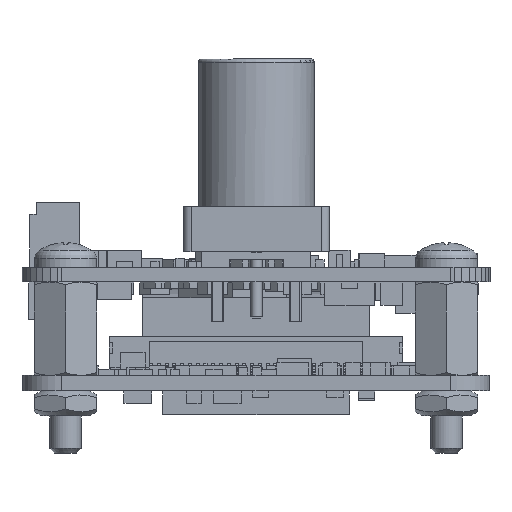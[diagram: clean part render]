
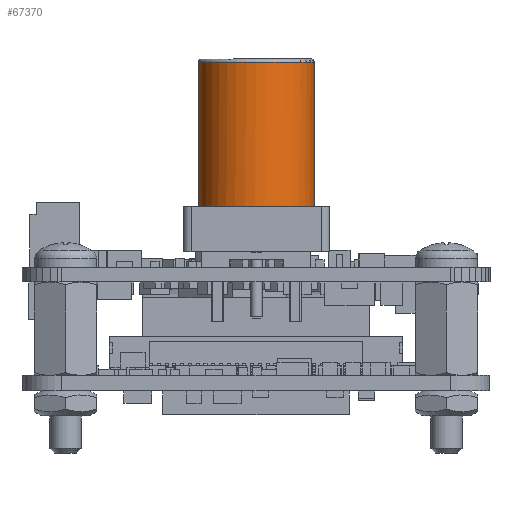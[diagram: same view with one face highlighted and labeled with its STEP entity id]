
A CAD part, front view. The second image highlights one B-rep face of the part: STEP entity #67370.
In plain terms, the highlighted cylindrical face has radius 3.725 mm (diameter 7.45 mm), a full revolution.
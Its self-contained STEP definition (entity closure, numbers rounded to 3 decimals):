
#7024=CYLINDRICAL_SURFACE('',#71460,3.725);
#10023=FACE_OUTER_BOUND('',#13705,.T.);
#13705=EDGE_LOOP('',(#62301,#62302,#62303,#62304,#62305,#62306,#62307,#62308));
#21596=LINE('',#104767,#29881);
#21597=LINE('',#104771,#29882);
#21598=LINE('',#104775,#29883);
#29881=VECTOR('',#86395,3.725);
#29882=VECTOR('',#86398,1.);
#29883=VECTOR('',#86401,1.);
#31130=CIRCLE('',#71461,3.725);
#31131=CIRCLE('',#71462,3.725);
#31132=CIRCLE('',#71463,3.725);
#31133=CIRCLE('',#71464,3.725);
#36562=VERTEX_POINT('',#104764);
#36563=VERTEX_POINT('',#104766);
#36564=VERTEX_POINT('',#104768);
#36565=VERTEX_POINT('',#104770);
#36566=VERTEX_POINT('',#104772);
#36567=VERTEX_POINT('',#104774);
#45246=EDGE_CURVE('',#36562,#36562,#31130,.T.);
#45247=EDGE_CURVE('',#36562,#36563,#21596,.T.);
#45248=EDGE_CURVE('',#36563,#36564,#31131,.T.);
#45249=EDGE_CURVE('',#36564,#36565,#21597,.T.);
#45250=EDGE_CURVE('',#36565,#36566,#31132,.T.);
#45251=EDGE_CURVE('',#36566,#36567,#21598,.T.);
#45252=EDGE_CURVE('',#36567,#36563,#31133,.T.);
#62301=ORIENTED_EDGE('',*,*,#45246,.T.);
#62302=ORIENTED_EDGE('',*,*,#45247,.T.);
#62303=ORIENTED_EDGE('',*,*,#45248,.T.);
#62304=ORIENTED_EDGE('',*,*,#45249,.T.);
#62305=ORIENTED_EDGE('',*,*,#45250,.T.);
#62306=ORIENTED_EDGE('',*,*,#45251,.T.);
#62307=ORIENTED_EDGE('',*,*,#45252,.T.);
#62308=ORIENTED_EDGE('',*,*,#45247,.F.);
#67370=ADVANCED_FACE('',(#10023),#7024,.T.);
#71460=AXIS2_PLACEMENT_3D('',#104763,#86391,#86392);
#71461=AXIS2_PLACEMENT_3D('',#104765,#86393,#86394);
#71462=AXIS2_PLACEMENT_3D('',#104769,#86396,#86397);
#71463=AXIS2_PLACEMENT_3D('',#104773,#86399,#86400);
#71464=AXIS2_PLACEMENT_3D('',#104776,#86402,#86403);
#86391=DIRECTION('center_axis',(0.,0.,1.));
#86392=DIRECTION('ref_axis',(1.,0.,0.));
#86393=DIRECTION('center_axis',(0.,0.,-1.));
#86394=DIRECTION('ref_axis',(1.,0.,0.));
#86395=DIRECTION('',(0.,0.,-1.));
#86396=DIRECTION('center_axis',(0.,0.,1.));
#86397=DIRECTION('ref_axis',(1.,0.,0.));
#86398=DIRECTION('',(0.,0.,1.));
#86399=DIRECTION('center_axis',(0.,0.,1.));
#86400=DIRECTION('ref_axis',(1.,0.,0.));
#86401=DIRECTION('',(0.,0.,-1.));
#86402=DIRECTION('center_axis',(0.,0.,1.));
#86403=DIRECTION('ref_axis',(1.,0.,0.));
#104763=CARTESIAN_POINT('Origin',(15.024,5.75,3.913));
#104764=CARTESIAN_POINT('',(11.296,5.75,13.212));
#104765=CARTESIAN_POINT('Origin',(15.021,5.75,13.213));
#104766=CARTESIAN_POINT('',(11.299,5.75,3.912));
#104767=CARTESIAN_POINT('',(11.299,5.75,3.912));
#104768=CARTESIAN_POINT('',(15.999,9.345,3.914));
#104769=CARTESIAN_POINT('Origin',(15.024,5.75,3.913));
#104770=CARTESIAN_POINT('',(15.997,9.345,8.864));
#104771=CARTESIAN_POINT('',(15.999,9.345,3.914));
#104772=CARTESIAN_POINT('',(14.047,9.345,8.863));
#104773=CARTESIAN_POINT('Origin',(15.022,5.75,8.863));
#104774=CARTESIAN_POINT('',(14.049,9.345,3.913));
#104775=CARTESIAN_POINT('',(14.049,9.345,3.913));
#104776=CARTESIAN_POINT('Origin',(15.024,5.75,3.913));
